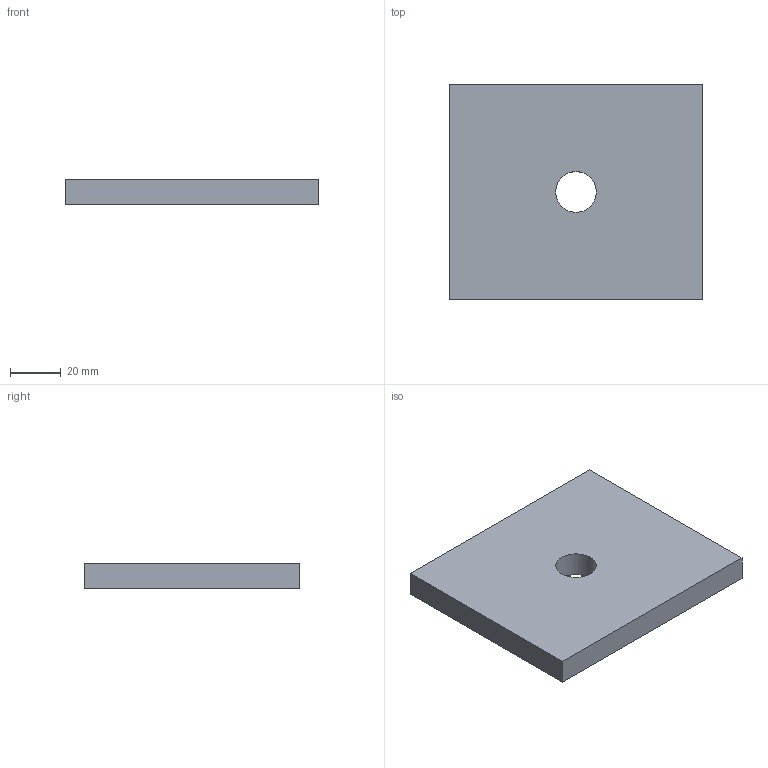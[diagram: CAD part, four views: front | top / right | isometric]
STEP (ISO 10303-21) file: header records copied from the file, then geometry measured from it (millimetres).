
FILE_DESCRIPTION(/* description */ (''),/* implementation_level */ '2;1');
FILE_NAME(/* name */ 'Pos102-Plaatwerk D= 10-S235JRG2-1st',/* time_stamp */ '2024-08-06T13:49:48+02:00',/* author */ (''),/* organization */ (''),/* preprocessor_version */ 'ST-DEVELOPER v16.5',/* originating_system */ 'HiCAD 2024 2901.2 Build 361',/* authorisation */ '');
FILE_SCHEMA (('AUTOMOTIVE_DESIGN { 1 0 10303 214 1 1 1 1 }'));
Length unit declared in the file: millimetre
Products named in the file (1): Pos102-Plaatwerk D= 10-S235JRG2-1st
Bounding box: 100 x 85 x 10 mm (x, y, z)
Volume: 82989.4 mm3; surface area: 20800.5 mm2
Topology: 1 solids, 1 shells, 7 faces, 16 edges, 11 vertices
Faces by surface type: plane 6, cylinder 1
Full cylindrical faces by diameter (mm): 16 x1
Entity records: 348 total; most frequent: CARTESIAN_POINT 31, DIRECTION 30, PRESENTATION_STYLE_ASSIGNMENT 29, COLOUR_RGB 29, DRAUGHTING_PRE_DEFINED_CURVE_FONT 28, CURVE_STYLE 28, OVER_RIDING_STYLED_ITEM 28, ORIENTED_EDGE 28
